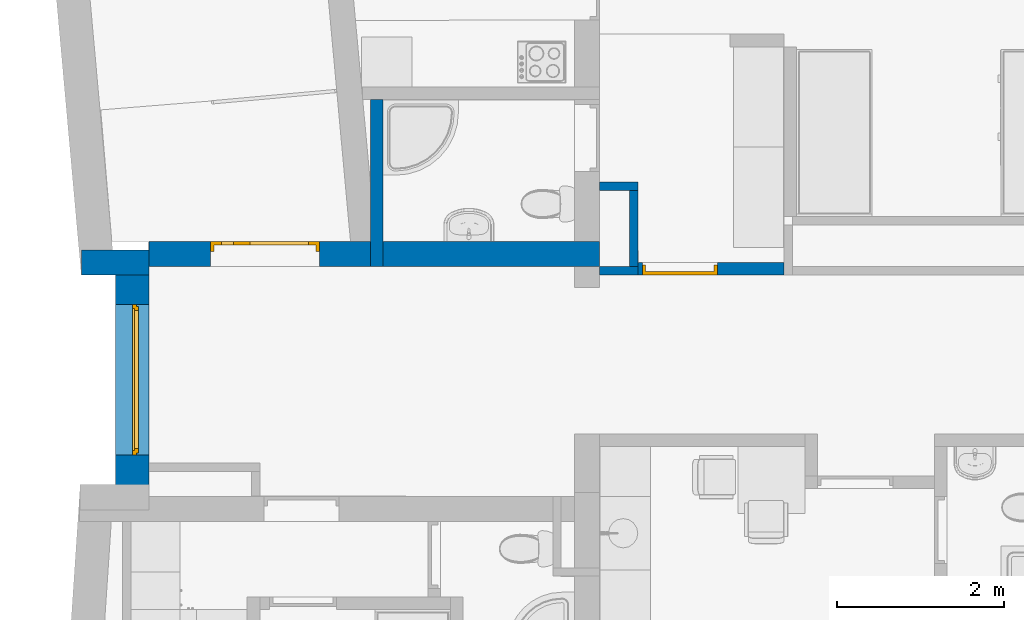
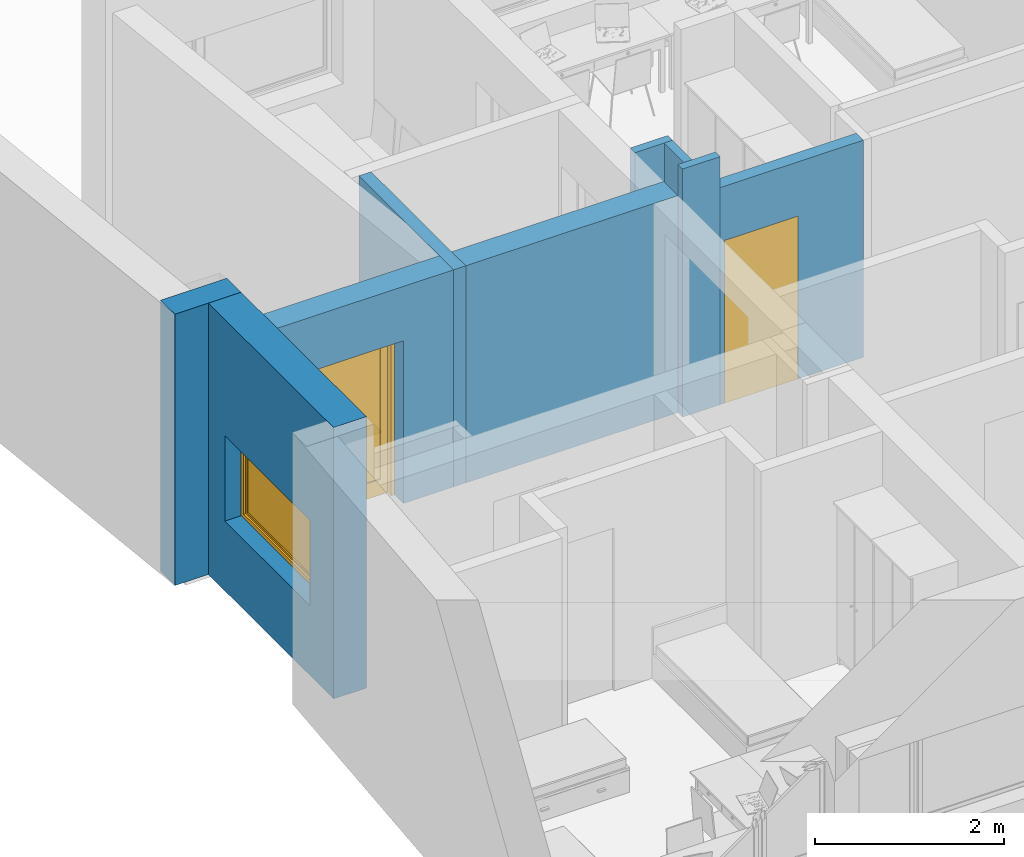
# One storey, part 4 of 152: 8 walls, 2 doors, 1 window, 3 openings.
"""IFC2X3 building model written with IfcOpenShell, lengths in millimetres."""

import ifcopenshell
import ifcopenshell.guid

model = None  # the IFC model being written
_history = None  # IfcOwnerHistory: only IFC2X3 demands one
_inside = {}  # id of a spatial element -> (the spatial element, [elements in it])
_under = {}  # id of a project, library or spatial element -> (it, [spatial elements below it])
_declared = {}  # id of a project -> (the project, [libraries it declares])
_typed = {}  # id of a type object -> (the type object, [elements of that type])
_made_of = {}  # id of a material, layer set ... -> (it, [elements and type objects made of it])


def new_model(schema):
    """Start an empty IFC model of exactly this schema.

    Asked for "IFC4X3", IfcOpenShell would pick the latest addendum, in which some entities
    have other attributes; the version numbers below select the first issue.
    IFC2X3 requires an IfcOwnerHistory on every rooted entity: one is made here for all.
    """
    global model, _history
    if schema == "IFC4X3":
        model = ifcopenshell.file(schema_version=(4, 3, 0, 0))
    else:
        model = ifcopenshell.file(schema=schema)
    _inside.clear()
    _under.clear()
    _declared.clear()
    _typed.clear()
    _made_of.clear()
    _history = None
    if model.schema == "IFC2X3":
        org = make("IfcOrganization", Name="unknown")
        user = make(
            "IfcPersonAndOrganization",
            ThePerson=make("IfcPerson", FamilyName="unknown"),
            TheOrganization=org,
        )
        app = make(
            "IfcApplication",
            ApplicationDeveloper=org,
            Version="unknown",
            ApplicationFullName="unknown",
            ApplicationIdentifier="unknown",
        )
        _history = make(
            "IfcOwnerHistory",
            OwningUser=user,
            OwningApplication=app,
            ChangeAction="ADDED",
            CreationDate=0,
        )
    return model


def make(cls, **values):
    """One entity of the class cls with the attributes given. An attribute that is None is left unset."""
    return model.create_entity(
        cls, **{name: value for name, value in values.items() if value is not None}
    )


def entity(cls, *values):
    """Any entity or typed value of the class cls, its attributes in the order of the schema. None: left unset."""
    e = model.create_entity(cls)
    for i, value in enumerate(values):
        if value is not None:
            e[i] = value
    return e


def rooted(cls, **values):
    """An entity with a GlobalId (a new one), such as an element, a storey or a relation."""
    return make(cls, GlobalId=ifcopenshell.guid.new(), OwnerHistory=_history, **values)


def si_unit(unit_type, name, prefix=None):
    """IfcSIUnit, for example si_unit("LENGTHUNIT", "METRE", prefix="MILLI")."""
    return make("IfcSIUnit", UnitType=unit_type, Prefix=prefix, Name=name)


def converted_unit(unit_type, name, factor, base, dimensions=None, offset=None):
    """IfcConversionBasedUnit, such as the inch: factor (a typed value) times the base unit."""
    return make(
        "IfcConversionBasedUnit"
        if offset is None
        else "IfcConversionBasedUnitWithOffset",
        ConversionOffset=offset,
        Dimensions=None
        if dimensions is None
        else entity("IfcDimensionalExponents", *dimensions),
        UnitType=unit_type,
        Name=name,
        ConversionFactor=make(
            "IfcMeasureWithUnit", ValueComponent=factor, UnitComponent=base
        ),
    )


def money_unit(currency):
    """IfcMonetaryUnit."""
    return make("IfcMonetaryUnit", Currency=currency)


def assignment(units):
    """IfcUnitAssignment: the units of a project."""
    return None if units is None else make("IfcUnitAssignment", Units=units)


def point(xyz):
    """IfcCartesianPoint."""
    return None if xyz is None else make("IfcCartesianPoint", Coordinates=xyz)


def direction(xyz):
    """IfcDirection."""
    return None if xyz is None else make("IfcDirection", DirectionRatios=xyz)


def frame(location, z_axis=None, x_axis=None):
    """IfcAxis2Placement3D, a coordinate frame: its origin and axes. An axis left out is left unset."""
    return make(
        "IfcAxis2Placement3D",
        Location=point(location),
        Axis=direction(z_axis),
        RefDirection=direction(x_axis),
    )


def origin_with_axes():
    """The frame at (0, 0, 0) with the z axis (0, 0, 1) and the x axis (1, 0, 0) written out."""
    return frame((0.0, 0.0, 0.0), z_axis=(0.0, 0.0, 1.0), x_axis=(1.0, 0.0, 0.0))


def place(relative_to, where):
    """IfcLocalPlacement: puts the frame where relative to a parent placement (None: the world)."""
    return make(
        "IfcLocalPlacement", PlacementRelTo=relative_to, RelativePlacement=where
    )


def context(
    kind, dimensions, precision=None, world=None, true_north=None, identifier=None
):
    """IfcGeometricRepresentationContext, for example the 3D "Model" context."""
    return make(
        "IfcGeometricRepresentationContext",
        ContextIdentifier=identifier,
        ContextType=kind,
        CoordinateSpaceDimension=dimensions,
        Precision=precision,
        WorldCoordinateSystem=world,
        TrueNorth=true_north,
    )


def subcontext(parent, identifier, kind, view, scale=None):
    """IfcGeometricRepresentationSubContext, for example "Body" below "Model"."""
    return make(
        "IfcGeometricRepresentationSubContext",
        ContextIdentifier=identifier,
        ContextType=kind,
        ParentContext=parent,
        TargetScale=scale,
        TargetView=view,
    )


def project(units=None, contexts=None):
    """IfcProject with its units and contexts."""
    return rooted(
        "IfcProject",
        Name="project",
        RepresentationContexts=contexts,
        UnitsInContext=assignment(units),
    )


def spatial(cls, under=None, at=None, **own):
    """A site, building, storey or space (cls), placed at a placement, below another one or the project."""
    s = rooted(cls, ObjectPlacement=at, **own)
    if under is not None:
        _under.setdefault(under.id(), (under, []))[1].append(s)
    return s


def polyline(points):
    """IfcPolyline through the points."""
    return make("IfcPolyline", Points=[point(p) for p in points])


def outline(outer, holes=None, kind="AREA"):
    """IfcArbitraryClosedProfileDef: a profile drawn as a closed curve; with holes, ...WithVoids."""
    if holes is None:
        return make("IfcArbitraryClosedProfileDef", ProfileType=kind, OuterCurve=outer)
    return make(
        "IfcArbitraryProfileDefWithVoids",
        ProfileType=kind,
        OuterCurve=outer,
        InnerCurves=holes,
    )


def extrude(swept, where, along, depth):
    """IfcExtrudedAreaSolid: the profile swept, set in the frame where, extruded along a direction by depth."""
    return make(
        "IfcExtrudedAreaSolid",
        SweptArea=swept,
        Position=where,
        ExtrudedDirection=direction(along),
        Depth=depth,
    )


def faces_of(points, faces, orient=None, outer=None):
    """IfcFace entities. A face is a list of loops; a loop is a list of indices into points, from 0.

    orient and outer hold one flag for each loop. By default every Orientation is true, the
    first loop of a face is its IfcFaceOuterBound and the others are IfcFaceBound.
    """
    made = []
    for i, loops in enumerate(faces):
        bounds = []
        for j, loop in enumerate(loops):
            is_outer = j == 0 if outer is None else outer[i][j]
            bounds.append(
                make(
                    "IfcFaceOuterBound" if is_outer else "IfcFaceBound",
                    Bound=make("IfcPolyLoop", Polygon=[points[k] for k in loop]),
                    Orientation=True if orient is None else orient[i][j],
                )
            )
        made.append(make("IfcFace", Bounds=bounds))
    return made


def open_shell(faces, orient=None, outer=None):
    """The faces of one IfcOpenShell. surface_model builds it on its shared points."""
    return ("IfcOpenShell", faces, orient, outer)


def faceted_brep(points, faces, orient=None, outer=None, voids=None):
    """IfcFacetedBrep: a solid bounded by flat faces; with voids (closed shells), ...WithVoids."""
    shared = [point(p) for p in points]
    hull = make("IfcClosedShell", CfsFaces=faces_of(shared, faces, orient, outer))
    if voids is None:
        return make("IfcFacetedBrep", Outer=hull)
    return make(
        "IfcFacetedBrepWithVoids",
        Outer=hull,
        Voids=[
            make(cls, CfsFaces=faces_of(shared, fs, o, b)) for cls, fs, o, b in voids
        ],
    )


def surface_model(cls, points, shells):
    """IfcFaceBasedSurfaceModel or IfcShellBasedSurfaceModel (cls): surfaces that need not close."""
    shared = [point(p) for p in points]
    made = [make(c, CfsFaces=faces_of(shared, fs, o, b)) for c, fs, o, b in shells]
    if cls == "IfcFaceBasedSurfaceModel":
        return make(cls, FbsmFaces=made)
    return make(cls, SbsmBoundary=made)


def shape(context_of_items, identifier, shape_type, items):
    """IfcShapeRepresentation: the items that make up one representation, for example the "Body"."""
    return make(
        "IfcShapeRepresentation",
        ContextOfItems=context_of_items,
        RepresentationIdentifier=identifier,
        RepresentationType=shape_type,
        Items=items,
    )


def source(mapping_origin, context_of_items, identifier, shape_type, items):
    """IfcRepresentationMap: a shape defined once, which mapped items show again and again."""
    return make(
        "IfcRepresentationMap",
        MappingOrigin=mapping_origin,
        MappedRepresentation=shape(context_of_items, identifier, shape_type, items),
    )


def transform(
    local_origin,
    x_axis=None,
    y_axis=None,
    z_axis=None,
    scale=None,
    scale2=None,
    scale3=None,
    uniform=True,
):
    """IfcCartesianTransformationOperator3D, or its non-uniform kind. x_axis, y_axis, z_axis: its Axis1, 2, 3."""
    if uniform:
        return make(
            "IfcCartesianTransformationOperator3D",
            Axis1=direction(x_axis),
            Axis2=direction(y_axis),
            LocalOrigin=point(local_origin),
            Scale=scale,
            Axis3=direction(z_axis),
        )
    return make(
        "IfcCartesianTransformationOperator3DnonUniform",
        Axis1=direction(x_axis),
        Axis2=direction(y_axis),
        LocalOrigin=point(local_origin),
        Scale=scale,
        Axis3=direction(z_axis),
        Scale2=scale2,
        Scale3=scale3,
    )


def mapped(mapping_source, mapping_target):
    """IfcMappedItem: shows the shape of a source again, moved by a transform."""
    return make(
        "IfcMappedItem", MappingSource=mapping_source, MappingTarget=mapping_target
    )


def material(Name=None, Category=None):
    """IfcMaterial."""
    return make("IfcMaterial", Name=Name, Category=Category)


def material_list(materials):
    """IfcMaterialList."""
    return make("IfcMaterialList", Materials=materials)


def layer(
    of_material, thickness, ventilated=None, Name=None, Category=None, Priority=None
):
    """IfcMaterialLayer: one layer of a wall or slab, of a material (None: an air gap)."""
    return make(
        "IfcMaterialLayer",
        Material=of_material,
        LayerThickness=thickness,
        IsVentilated=ventilated,
        Name=Name,
        Category=Category,
        Priority=Priority,
    )


def layer_set(layers, Name=None):
    """IfcMaterialLayerSet."""
    return make("IfcMaterialLayerSet", MaterialLayers=layers, LayerSetName=Name)


def layer_usage(for_layer_set, set_direction, sense, offset, extent=None):
    """IfcMaterialLayerSetUsage: how a layer set lies in its element."""
    return make(
        "IfcMaterialLayerSetUsage",
        ForLayerSet=for_layer_set,
        LayerSetDirection=set_direction,
        DirectionSense=sense,
        OffsetFromReferenceLine=offset,
        ReferenceExtent=extent,
    )


def made_of(thing, what):
    """Note that an element or type object is made of a material, layer set ...; save() writes the relation."""
    if what is not None:
        _made_of.setdefault(what.id(), (what, []))[1].append(thing)
    return thing


def type_object(cls, material=None, **own):
    """A type object (cls), such as IfcWallType, which elements share."""
    return made_of(rooted(cls, **own), material)


def element(
    cls,
    number,
    at=None,
    inside=None,
    cuts=None,
    type_object=None,
    material=None,
    context=None,
    identifier="Body",
    shape_type=None,
    held_by="IfcProductDefinitionShape",
    body=None,
    shapes=None,
    **own,
):
    """One element of the class cls, such as IfcWall. Its Tag is "e" and its number.

    at: its placement. inside: the storey or other place that contains it. cuts: it is an
    opening in that element (IfcRelVoidsElement). A single representation is given by context,
    identifier, shape_type and body (its items); several are given by shapes. held_by: the class
    of the entity that holds the representations. save() writes the other relations.
    """
    e = rooted(cls, Tag="e%d" % number, ObjectPlacement=at, **own)
    if body is not None:
        shapes = [shape(context, identifier, shape_type, body)]
    if shapes is not None:
        e.Representation = make(held_by, Representations=shapes)
    if inside is not None:
        _inside.setdefault(inside.id(), (inside, []))[1].append(e)
    if cuts is not None:
        rooted(
            "IfcRelVoidsElement", RelatingBuildingElement=cuts, RelatedOpeningElement=e
        )
    if type_object is not None:
        _typed.setdefault(type_object.id(), (type_object, []))[1].append(e)
    return made_of(e, material)


def fill(opening, filler):
    """IfcRelFillsElement: the door or window that sits in an opening."""
    return rooted(
        "IfcRelFillsElement",
        RelatingOpeningElement=opening,
        RelatedBuildingElement=filler,
    )


def aggregate(whole, parts):
    """IfcRelAggregates: a whole, such as a stair, and the parts it consists of."""
    return rooted("IfcRelAggregates", RelatingObject=whole, RelatedObjects=parts)


def save(model, path):
    """Write the relations noted so far, then the file.

    IfcRelAggregates (storeys below a building ...), IfcRelContainedInSpatialStructure (elements
    in a storey), IfcRelDefinesByType, IfcRelAssociatesMaterial and IfcRelDeclares: one each for
    every whole, place, type object, material and project.
    """
    for whole, parts in _under.values():
        aggregate(whole, parts)
    for where, things in _inside.values():
        rooted(
            "IfcRelContainedInSpatialStructure",
            RelatedElements=things,
            RelatingStructure=where,
        )
    for kind, things in _typed.values():
        rooted("IfcRelDefinesByType", RelatedObjects=things, RelatingType=kind)
    for what, things in _made_of.values():
        rooted("IfcRelAssociatesMaterial", RelatedObjects=things, RelatingMaterial=what)
    for by, libraries in _declared.values():
        rooted("IfcRelDeclares", RelatingContext=by, RelatedDefinitions=libraries)
    model.write(path)


model = new_model("IFC2X3")

# Units and contexts
model_context = context("Model", 3, precision=1e-05, world=origin_with_axes(), true_north=direction((0.0, 1.0)))
body_context = subcontext(model_context, "Body", "Model", "MODEL_VIEW")
ifc_project = project(units=[si_unit("LENGTHUNIT", "METRE", prefix="MILLI"), si_unit("AREAUNIT", "SQUARE_METRE"), si_unit("VOLUMEUNIT", "CUBIC_METRE"), converted_unit("PLANEANGLEUNIT", "DEGREE", entity("IfcPlaneAngleMeasure", 0.0174532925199), si_unit("PLANEANGLEUNIT", "RADIAN"), dimensions=[0, 0, 0, 0, 0, 0, 0]), si_unit("SOLIDANGLEUNIT", "STERADIAN"), money_unit("USD"), converted_unit("TIMEUNIT", "Year", entity("IfcTimeMeasure", 31556926.0), si_unit("TIMEUNIT", "SECOND"), dimensions=[0, 0, 0, 0, 0, 0, 0]), si_unit("MASSUNIT", "GRAM"), si_unit("THERMODYNAMICTEMPERATUREUNIT", "DEGREE_CELSIUS"), si_unit("LUMINOUSINTENSITYUNIT", "LUMEN")], contexts=[model_context])

# Site, building, storey
site_placement = place(None, origin_with_axes())
site = spatial("IfcSite", under=ifc_project, at=site_placement, Name="Site", CompositionType="ELEMENT")
building_placement = place(site_placement, origin_with_axes())
building = spatial("IfcBuilding", under=site, at=building_placement, Name="Building", CompositionType="ELEMENT")
storey_placement = place(building_placement, frame((0.0, 0.0, 9500.0), z_axis=(0.0, 0.0, 1.0), x_axis=(1.0, 0.0, 0.0)))
storey = spatial("IfcBuildingStorey", under=building, at=storey_placement, Name="5KORRUS", CompositionType="ELEMENT", Elevation=9500.0)

# Wall, opening, window
ifc_material_1 = material(Name="Olemasolevad seinad tellis, uus viimistlus")
ifc_layer_1 = layer(ifc_material_1, 400.0, ventilated="UNKNOWN")
ifc_layer_set_1 = layer_set([ifc_layer_1], Name="Olemasolevad seinad tellis, uus viimistlus 400")
ifc_layer_usage_1 = layer_usage(ifc_layer_set_1, "AXIS2", "POSITIVE", -400.0)
wall_type_1 = type_object("IfcWallType", Name="Olemasolevad seinad tellis, uus viimistlus 400", PredefinedType="NOTDEFINED")
wall_1_placement = place(storey_placement, frame((-53377.938157, -11039.6041088, 0.0), z_axis=(0.0, 0.0, 1.0), x_axis=(0.0, -1.0, 0.0)))
wall_1 = element("IfcWallStandardCase", 1, at=wall_1_placement, inside=storey, type_object=wall_type_1, material=ifc_layer_usage_1, Name="VS1", ObjectType="VS1", context=body_context, shape_type="SweptSolid", body=[
    extrude(outline(polyline([(0.0, -400.0), (2747.73345855, -400.0), (2747.73345855, 0.0), (0.0, 0.0), (0.0, -400.0)])), origin_with_axes(), (0.0, 0.0, 1.0), 3500.0),
])
opening_1_placement = place(wall_1_placement, frame((1349.63579061, 0.0, 900.0), z_axis=(0.0, 0.0, 1.0), x_axis=(1.0, 0.0, 0.0)))
opening_1 = element("IfcOpeningElement", 2, at=opening_1_placement, cuts=wall_1, Name="A5", context=body_context, shape_type="SweptSolid", body=[
    extrude(outline(polyline([(-900.0, 1100.0), (-900.0, 0.0), (900.0, 0.0), (900.0, 1100.0), (-900.0, 1100.0)])), frame((0.0, -200.0, 0.0), z_axis=(0.0, -1.0, 0.0), x_axis=(1.0, 0.0, 0.0)), (0.0, 0.0, 1.0), 600.0),
    extrude(outline(polyline([(-900.0, 0.0), (-900.0, -1100.0), (900.0, -1100.0), (900.0, 0.0), (-900.0, 0.0)])), frame((0.0, -200.0, 0.0), z_axis=(0.0, 1.0, 0.0), x_axis=(1.0, 0.0, 0.0)), (0.0, 0.0, 1.0), 600.0),
])
ifc_material_2 = material(Name="Background")
ifc_material_list = material_list([ifc_material_2])
window_style = type_object("IfcWindowStyle", Name="Window 19", ConstructionType="NOTDEFINED", OperationType="SINGLE_PANEL", ParameterTakesPrecedence=False, Sizeable=False)
shared_shape_1 = source(origin_with_axes(), body_context, "Body", "SurfaceModel", [
    faceted_brep([(-875.0, -150.0, 1050.0), (-900.0, -150.0, 1050.0), (-900.0, -200.0, 1050.0), (-850.0, -200.0, 1050.0), (-850.0, -175.0, 1050.0), (-875.0, -175.0, 1050.0), (-875.0, -150.0, 50.0), (-900.0, -150.0, 50.0), (-900.0, -200.0, 50.0), (-850.0, -200.0, 50.0), (-850.0, -175.0, 50.0), (-875.0, -175.0, 50.0)], [[[0, 1, 2, 3, 4, 5]], [[6, 7, 1, 0]], [[1, 7, 8, 2]], [[2, 8, 9, 3]], [[4, 3, 9, 10]], [[10, 11, 5, 4]], [[5, 11, 6, 0]], [[11, 10, 9, 8, 7, 6]]]),
    faceted_brep([(850.0, -175.0, 1050.0), (850.0, -200.0, 1050.0), (900.0, -200.0, 1050.0), (900.0, -150.0, 1050.0), (875.0, -150.0, 1050.0), (875.0, -175.0, 1050.0), (850.0, -175.0, 50.0), (850.0, -200.0, 50.0), (900.0, -200.0, 50.0), (900.0, -150.0, 50.0), (875.0, -150.0, 50.0), (875.0, -175.0, 50.0)], [[[0, 1, 2, 3, 4, 5]], [[6, 7, 1, 0]], [[8, 2, 1, 7]], [[9, 3, 2, 8]], [[4, 3, 9, 10]], [[10, 11, 5, 4]], [[5, 11, 6, 0]], [[11, 10, 9, 8, 7, 6]]]),
    faceted_brep([(850.0, -175.0, 50.0), (850.0, -200.0, 50.0), (900.0, -200.0, 50.0), (900.0, -150.0, 50.0), (875.0, -150.0, 50.0), (875.0, -175.0, 50.0), (-850.0, -175.0, 50.0), (-850.0, -200.0, 50.0), (-900.0, -200.0, 50.0), (-900.0, -200.0, 0.0), (900.0, -200.0, 0.0), (900.0, -150.0, 0.0), (-875.0, -150.0, 25.0), (875.0, -150.0, 25.0), (-900.0, -150.0, 0.0), (-900.0, -150.0, 50.0), (-875.0, -150.0, 50.0), (875.0, -175.0, 25.0), (-875.0, -175.0, 25.0), (-875.0, -175.0, 50.0)], [[[0, 1, 2, 3, 4, 5]], [[6, 7, 1, 0]], [[8, 9, 10, 2, 1, 7]], [[11, 3, 2, 10]], [[12, 13, 4, 3, 11, 14, 15, 16]], [[13, 17, 5, 4]], [[5, 17, 18, 19, 6, 0]], [[19, 16, 15, 8, 7, 6]], [[15, 14, 9, 8]], [[14, 11, 10, 9]], [[12, 18, 17, 13]], [[19, 18, 12, 16]]]),
    faceted_brep([(-875.0, -150.0, 1050.0), (-900.0, -150.0, 1050.0), (-900.0, -150.0, 1100.0), (900.0, -150.0, 1100.0), (900.0, -150.0, 1050.0), (875.0, -150.0, 1050.0), (875.0, -150.0, 1075.0), (-875.0, -150.0, 1075.0), (-875.0, -175.0, 1050.0), (-850.0, -175.0, 1050.0), (-850.0, -200.0, 1050.0), (-900.0, -200.0, 1050.0), (-900.0, -200.0, 1100.0), (900.0, -200.0, 1100.0), (900.0, -200.0, 1050.0), (875.0, -175.0, 1050.0), (850.0, -200.0, 1050.0), (850.0, -175.0, 1050.0), (875.0, -175.0, 1075.0), (-875.0, -175.0, 1075.0)], [[[0, 1, 2, 3, 4, 5, 6, 7]], [[8, 9, 10, 11, 1, 0]], [[2, 1, 11, 12]], [[3, 2, 12, 13]], [[4, 3, 13, 14]], [[15, 5, 4, 14, 16, 17]], [[5, 15, 18, 6]], [[6, 18, 19, 7]], [[7, 19, 8, 0]], [[17, 9, 8, 19, 18, 15]], [[17, 16, 10, 9]], [[14, 13, 12, 11, 10, 16]]]),
    faceted_brep([(-825.0, -175.0, 1025.0), (-825.0, -125.0, 1025.0), (-875.0, -125.0, 1025.0), (-875.0, -175.0, 1025.0), (-825.0, -175.0, 75.0), (-825.0, -125.0, 75.0), (-875.0, -125.0, 75.0), (-875.0, -175.0, 75.0)], [[[0, 1, 2, 3]], [[4, 5, 1, 0]], [[1, 5, 6, 2]], [[3, 2, 6, 7]], [[0, 3, 7, 4]], [[7, 6, 5, 4]]]),
    faceted_brep([(825.0, -175.0, 75.0), (825.0, -125.0, 75.0), (875.0, -125.0, 75.0), (875.0, -175.0, 75.0), (825.0, -175.0, 1025.0), (825.0, -125.0, 1025.0), (875.0, -125.0, 1025.0), (875.0, -175.0, 1025.0)], [[[0, 1, 2, 3]], [[4, 5, 1, 0]], [[1, 5, 6, 2]], [[3, 2, 6, 7]], [[0, 3, 7, 4]], [[7, 6, 5, 4]]]),
    faceted_brep([(875.0, -175.0, 25.0), (875.0, -125.0, 25.0), (875.0, -125.0, 75.0), (875.0, -175.0, 75.0), (-875.0, -175.0, 25.0), (-875.0, -125.0, 25.0), (-875.0, -125.0, 75.0), (-825.0, -125.0, 75.0), (825.0, -125.0, 75.0), (825.0, -175.0, 75.0), (-825.0, -175.0, 75.0), (-875.0, -175.0, 75.0)], [[[0, 1, 2, 3]], [[4, 5, 1, 0]], [[1, 5, 6, 7, 8, 2]], [[3, 2, 8, 9]], [[0, 3, 9, 10, 11, 4]], [[11, 6, 5, 4]], [[10, 7, 6, 11]], [[9, 8, 7, 10]]]),
    faceted_brep([(-875.0, -175.0, 1075.0), (-875.0, -125.0, 1075.0), (-875.0, -125.0, 1025.0), (-875.0, -175.0, 1025.0), (875.0, -175.0, 1075.0), (875.0, -125.0, 1075.0), (875.0, -125.0, 1025.0), (825.0, -125.0, 1025.0), (-825.0, -125.0, 1025.0), (-825.0, -175.0, 1025.0), (825.0, -175.0, 1025.0), (875.0, -175.0, 1025.0)], [[[0, 1, 2, 3]], [[4, 5, 1, 0]], [[1, 5, 6, 7, 8, 2]], [[3, 2, 8, 9]], [[0, 3, 9, 10, 11, 4]], [[11, 6, 5, 4]], [[10, 7, 6, 11]], [[9, 8, 7, 10]]]),
    surface_model("IfcShellBasedSurfaceModel", [(-825.0, -160.0, 75.0), (825.0, -160.0, 75.0), (825.0, -160.0, 1025.0), (-825.0, -160.0, 1025.0)], [open_shell([[[0, 1, 2, 3]]])]),
    surface_model("IfcShellBasedSurfaceModel", [(-825.0, -140.0, 75.0), (-825.0, -140.0, 1025.0), (825.0, -140.0, 1025.0), (825.0, -140.0, 75.0)], [open_shell([[[0, 1, 2, 3]]])]),
])
window_placement = place(opening_1_placement, frame((-900.0, 0.0, 0.0), z_axis=(0.0, 0.0, 1.0), x_axis=(1.0, 0.0, 0.0)))
window = element("IfcWindow", 3, at=window_placement, inside=storey, type_object=window_style, material=ifc_material_list, Name="A5", ObjectType="A1", OverallHeight=1100.0, OverallWidth=1800.0, context=body_context, shape_type="MappedRepresentation", body=[
    mapped(shared_shape_1, transform((900.0, 0.0, 0.0))),
])
fill(opening_1, window)

# Walls
ifc_layer_2 = layer(ifc_material_1, 300.0, ventilated="UNKNOWN")
ifc_layer_set_2 = layer_set([ifc_layer_2], Name="Olemasolevad seinad tellis, uus viimistlus 300")
ifc_layer_usage_2 = layer_usage(ifc_layer_set_2, "AXIS2", "POSITIVE", 0.0)
wall_type_2 = type_object("IfcWallType", Name="Olemasolevad seinad tellis, uus viimistlus 300", PredefinedType="NOTDEFINED")
wall_2_placement = place(storey_placement, frame((-54187.7234453, -11140.7868098, 0.0), z_axis=(0.0, 0.0, 1.0), x_axis=(1.0, 0.0, 0.0)))
element("IfcWallStandardCase", 4, at=wall_2_placement, inside=storey, type_object=wall_type_2, material=ifc_layer_usage_2, Name="VS1", ObjectType="VS1", context=body_context, shape_type="SweptSolid", body=[
    extrude(outline(polyline([(0.0, 0.0), (809.7852883, 0.0), (809.7852883, 300.0), (0.0, 300.0), (0.0, 0.0)])), origin_with_axes(), (0.0, 0.0, 1.0), 3500.0),
])
ifc_material_3 = material(Name="UmbKipsplaat")
ifc_layer_3 = layer(ifc_material_3, 13.0, ventilated="UNKNOWN")
ifc_layer_4 = layer(ifc_material_3, 13.0, ventilated="UNKNOWN")
ifc_material_4 = material(Name="SOOJUSTUS MINERAALVILL")
ifc_layer_5 = layer(ifc_material_4, 98.0, ventilated="UNKNOWN")
ifc_layer_6 = layer(ifc_material_3, 13.0, ventilated="UNKNOWN")
ifc_layer_7 = layer(ifc_material_3, 13.0, ventilated="UNKNOWN")
ifc_layer_set_3 = layer_set([ifc_layer_3, ifc_layer_4, ifc_layer_5, ifc_layer_6, ifc_layer_7], Name="kipssein150")
ifc_layer_usage_3 = layer_usage(ifc_layer_set_3, "AXIS2", "POSITIVE", -150.0)
wall_type_3 = type_object("IfcWallType", Name="kipssein150 150", PredefinedType="NOTDEFINED")
wall_3_placement = place(storey_placement, frame((-50578.5849733, -9039.27319796, 0.0), z_axis=(0.0, 0.0, 1.0), x_axis=(0.0, -1.0, 0.0)))
element("IfcWallStandardCase", 5, at=wall_3_placement, inside=storey, type_object=wall_type_3, material=ifc_layer_usage_3, Name="SS1", ObjectType="SS1", context=body_context, shape_type="SweptSolid", body=[
    extrude(outline(polyline([(0.0, -150.0), (2000.33091084, -150.0), (2000.33091084, 0.0), (0.0, 0.0), (0.0, -150.0)])), origin_with_axes(), (0.0, 0.0, 1.0), 2800.0),
])

# Wall, opening, door
ifc_layer_usage_4 = layer_usage(ifc_layer_set_3, "AXIS2", "POSITIVE", 0.0)
wall_4_placement = place(storey_placement, frame((-47531.5705949, -11136.6041088, 0.0), z_axis=(0.0, 0.0, 1.0), x_axis=(1.0, 0.0, 0.0)))
wall_4 = element("IfcWallStandardCase", 6, at=wall_4_placement, inside=storey, type_object=wall_type_3, material=ifc_layer_usage_4, Name="SS1", ObjectType="SS1", context=body_context, shape_type="SweptSolid", body=[
    extrude(outline(polyline([(0.0, 0.0), (1747.43782012, 0.0), (1747.43782012, 150.0), (0.0, 150.0), (0.0, 0.0)])), origin_with_axes(), (0.0, 0.0, 1.0), 2800.0),
])
opening_2_placement = place(wall_4_placement, frame((501.025231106, 0.0, 0.0), z_axis=(0.0, 0.0, 1.0), x_axis=(1.0, 0.0, 0.0)))
opening_2 = element("IfcOpeningElement", 7, at=opening_2_placement, cuts=wall_4, Name="SU2-6", context=body_context, shape_type="SweptSolid", body=[
    extrude(outline(polyline([(-450.0, -2100.0), (450.0, -2100.0), (450.0, 0.0), (-450.0, 0.0), (-450.0, -2100.0)])), frame((0.0, 150.0, 0.0), z_axis=(0.0, 1.0, 0.0), x_axis=(1.0, 0.0, 0.0)), (0.0, 0.0, -1.0), 450.0),
])
door_style_1 = type_object("IfcDoorStyle", Name="Door 19", ConstructionType="NOTDEFINED", OperationType="SINGLE_SWING_LEFT", ParameterTakesPrecedence=False, Sizeable=False)
shared_shape_2 = source(origin_with_axes(), body_context, "Body", "Brep", [
    faceted_brep([(410.0, -40.0, 0.0), (410.0, -115.0, 0.0), (410.0, -115.0, 2060.0), (410.0, -40.0, 2060.0), (422.0, -40.0, 0.0), (422.0, 0.0, 0.0), (450.0, 0.0, 0.0), (450.0, -115.0, 0.0), (450.0, -115.0, 2060.0), (422.0, -40.0, 2060.0), (450.0, 0.0, 2060.0), (422.0, 0.0, 2060.0)], [[[0, 1, 2, 3]], [[4, 5, 6, 7, 1, 0]], [[2, 1, 7, 8]], [[9, 3, 2, 8, 10, 11]], [[9, 4, 0, 3]], [[11, 5, 4, 9]], [[11, 10, 6, 5]], [[7, 6, 10, 8]]]),
    faceted_brep([(-422.0, -40.0, 2060.0), (-422.0, 0.0, 2060.0), (-450.0, 0.0, 2060.0), (-450.0, -115.0, 2060.0), (-410.0, -115.0, 2060.0), (-410.0, -40.0, 2060.0), (-422.0, -40.0, 0.0), (-422.0, 0.0, 0.0), (-450.0, 0.0, 0.0), (-450.0, -115.0, 0.0), (-410.0, -115.0, 0.0), (-410.0, -40.0, 0.0)], [[[0, 1, 2, 3, 4, 5]], [[0, 6, 7, 1]], [[7, 8, 2, 1]], [[3, 2, 8, 9]], [[4, 3, 9, 10]], [[5, 4, 10, 11]], [[5, 11, 6, 0]], [[6, 11, 10, 9, 8, 7]]]),
    faceted_brep([(422.0, 0.0, 2072.0), (-422.0, 0.0, 2072.0), (-422.0, 0.0, 2060.0), (-450.0, 0.0, 2060.0), (-450.0, 0.0, 2100.0), (450.0, 0.0, 2100.0), (450.0, 0.0, 2060.0), (422.0, 0.0, 2060.0), (422.0, -40.0, 2072.0), (-422.0, -40.0, 2072.0), (-422.0, -40.0, 2060.0), (-410.0, -40.0, 2060.0), (-410.0, -115.0, 2060.0), (-450.0, -115.0, 2060.0), (-450.0, -115.0, 2100.0), (450.0, -115.0, 2100.0), (450.0, -115.0, 2060.0), (422.0, -40.0, 2060.0), (410.0, -115.0, 2060.0), (410.0, -40.0, 2060.0)], [[[0, 1, 2, 3, 4, 5, 6, 7]], [[0, 8, 9, 1]], [[1, 9, 10, 2]], [[10, 11, 12, 13, 3, 2]], [[14, 4, 3, 13]], [[15, 5, 4, 14]], [[16, 6, 5, 15]], [[17, 7, 6, 16, 18, 19]], [[7, 17, 8, 0]], [[10, 9, 8, 17, 19, 11]], [[19, 18, 12, 11]], [[13, 12, 18, 16, 15, 14]]]),
    faceted_brep([(-422.0, 0.0, 0.0), (422.0, 0.0, 0.0), (422.0, -40.0, 0.0), (-422.0, -40.0, 0.0), (-422.0, 0.0, 2072.0), (422.0, 0.0, 2072.0), (422.0, -40.0, 2072.0), (-422.0, -40.0, 2072.0)], [[[0, 1, 2, 3]], [[0, 4, 5, 1]], [[1, 5, 6, 2]], [[3, 2, 6, 7]], [[4, 0, 3, 7]], [[5, 4, 7, 6]]]),
])
door_1_placement = place(opening_2_placement, frame((450.0, 0.0, 0.0), z_axis=(0.0, 0.0, 1.0), x_axis=(-1.0, 0.0, 0.0)))
door_1 = element("IfcDoor", 8, at=door_1_placement, inside=storey, type_object=door_style_1, material=ifc_material_list, Name="SU2-6", ObjectType="Korteri välisuks", OverallHeight=2100.0, OverallWidth=900.0, context=body_context, shape_type="MappedRepresentation", body=[
    mapped(shared_shape_2, transform((450.0, 0.0, 0.0))),
])
fill(opening_2, door_1)

ifc_material_5 = material(Name="Olemasolevad seinad tellis, uus viimistlus")
ifc_layer_8 = layer(ifc_material_5, 300.0, ventilated="UNKNOWN")
ifc_layer_set_4 = layer_set([ifc_layer_8], Name="Olemasolevad seinad tellis, uus viimistlus  300")
ifc_layer_usage_5 = layer_usage(ifc_layer_set_4, "AXIS2", "POSITIVE", 0.0)
wall_type_4 = type_object("IfcWallType", Name="Olemasolevad seinad tellis, uus viimistlus  300", PredefinedType="NOTDEFINED")
wall_5_placement = place(storey_placement, frame((-53377.938157, -11039.6041088, 0.0), z_axis=(0.0, 0.0, 1.0), x_axis=(1.0, 0.0, 0.0)))
wall_5 = element("IfcWallStandardCase", 9, at=wall_5_placement, inside=storey, type_object=wall_type_4, material=ifc_layer_usage_5, Name="KS1", ObjectType="KS1", context=body_context, shape_type="SweptSolid", body=[
    extrude(outline(polyline([(0.0, 0.0), (5387.64145368, 0.0), (5387.64145368, 300.0), (0.0, 300.0), (0.0, 0.0)])), origin_with_axes(), (0.0, 0.0, 1.0), 2800.0),
])
opening_3_placement = place(wall_5_placement, frame((1386.20809059, 0.0, 0.0), z_axis=(0.0, 0.0, 1.0), x_axis=(1.0, 0.0, 0.0)))
opening_3 = element("IfcOpeningElement", 10, at=opening_3_placement, cuts=wall_5, Name="SU4-2", context=body_context, shape_type="SweptSolid", body=[
    extrude(outline(polyline([(-650.0, -2100.0), (650.0, -2100.0), (650.0, 0.0), (-650.0, 0.0), (-650.0, -2100.0)])), frame((0.0, -300.0, 0.0), z_axis=(0.0, 1.0, 0.0), x_axis=(1.0, 0.0, 0.0)), (0.0, 0.0, 1.0), 900.0),
])
door_style_2 = type_object("IfcDoorStyle", Name="Double Door Asymmetric 19", ConstructionType="NOTDEFINED", OperationType="DOUBLE_DOOR_SINGLE_SWING", ParameterTakesPrecedence=False, Sizeable=False)
shared_shape_3 = source(origin_with_axes(), body_context, "Body", "SurfaceModel", [
    faceted_brep([(-610.0, -40.0, 0.0), (-610.0, -40.0, 2060.0), (-610.0, -115.0, 2060.0), (-610.0, -115.0, 0.0), (-622.0, -40.0, 2060.0), (-622.0, -40.0, 0.0), (-622.0, 0.0, 2060.0), (-650.0, 0.0, 2060.0), (-650.0, -115.0, 2060.0), (-650.0, -115.0, 0.0), (-650.0, 0.0, 0.0), (-622.0, 0.0, 0.0)], [[[0, 1, 2, 3]], [[4, 1, 0, 5]], [[4, 6, 7, 8, 2, 1]], [[2, 8, 9, 3]], [[5, 0, 3, 9, 10, 11]], [[6, 4, 5, 11]], [[6, 11, 10, 7]], [[9, 8, 7, 10]]]),
    faceted_brep([(622.0, -40.0, 2060.0), (610.0, -40.0, 2060.0), (610.0, -115.0, 2060.0), (650.0, -115.0, 2060.0), (650.0, 0.0, 2060.0), (622.0, 0.0, 2060.0), (622.0, -40.0, 0.0), (610.0, -40.0, 0.0), (610.0, -115.0, 0.0), (650.0, -115.0, 0.0), (650.0, 0.0, 0.0), (622.0, 0.0, 0.0)], [[[0, 1, 2, 3, 4, 5]], [[1, 0, 6, 7]], [[1, 7, 8, 2]], [[2, 8, 9, 3]], [[3, 9, 10, 4]], [[11, 5, 4, 10]], [[0, 5, 11, 6]], [[6, 11, 10, 9, 8, 7]]]),
    faceted_brep([(-622.0, 0.0, 2072.0), (-622.0, 0.0, 2060.0), (-650.0, 0.0, 2060.0), (-650.0, 0.0, 2100.0), (650.0, 0.0, 2100.0), (650.0, 0.0, 2060.0), (622.0, 0.0, 2060.0), (622.0, 0.0, 2072.0), (-622.0, -40.0, 2072.0), (-622.0, -40.0, 2060.0), (-610.0, -40.0, 2060.0), (-610.0, -115.0, 2060.0), (-650.0, -115.0, 2060.0), (-650.0, -115.0, 2100.0), (650.0, -115.0, 2100.0), (650.0, -115.0, 2060.0), (622.0, -40.0, 2060.0), (610.0, -115.0, 2060.0), (610.0, -40.0, 2060.0), (622.0, -40.0, 2072.0)], [[[0, 1, 2, 3, 4, 5, 6, 7]], [[1, 0, 8, 9]], [[9, 10, 11, 12, 2, 1]], [[12, 13, 3, 2]], [[13, 14, 4, 3]], [[14, 15, 5, 4]], [[16, 6, 5, 15, 17, 18]], [[7, 6, 16, 19]], [[0, 7, 19, 8]], [[16, 18, 10, 9, 8, 19]], [[10, 18, 17, 11]], [[15, 14, 13, 12, 11, 17]]]),
    faceted_brep([(622.0, 0.0, 200.0), (622.0, -40.0, 200.0), (522.0, -40.0, 200.0), (522.0, 0.0, 200.0), (622.0, 0.0, 1972.0), (622.0, -40.0, 1972.0), (522.0, -40.0, 1972.0), (522.0, 0.0, 1972.0)], [[[0, 1, 2, 3]], [[4, 5, 1, 0]], [[1, 5, 6, 2]], [[3, 2, 6, 7]], [[0, 3, 7, 4]], [[7, 6, 5, 4]]]),
    faceted_brep([(-278.0, 0.0, 200.0), (-278.0, -40.0, 200.0), (-278.0, -40.0, 1972.0), (-278.0, 0.0, 1972.0), (-178.0, 0.0, 200.0), (-178.0, -40.0, 200.0), (-178.0, -40.0, 1972.0), (-178.0, 0.0, 1972.0)], [[[0, 1, 2, 3]], [[4, 5, 1, 0]], [[1, 5, 6, 2]], [[3, 2, 6, 7]], [[0, 3, 7, 4]], [[7, 6, 5, 4]]]),
    faceted_brep([(622.0, 0.0, 0.0), (622.0, -40.0, 0.0), (-278.0, -40.0, 0.0), (-278.0, 0.0, 0.0), (622.0, 0.0, 200.0), (622.0, -40.0, 200.0), (522.0, -40.0, 200.0), (-178.0, -40.0, 200.0), (-278.0, -40.0, 200.0), (-278.0, 0.0, 200.0), (-178.0, 0.0, 200.0), (522.0, 0.0, 200.0)], [[[0, 1, 2, 3]], [[4, 5, 1, 0]], [[1, 5, 6, 7, 8, 2]], [[3, 2, 8, 9]], [[0, 3, 9, 10, 11, 4]], [[11, 6, 5, 4]], [[10, 7, 6, 11]], [[9, 8, 7, 10]]]),
    faceted_brep([(622.0, 0.0, 2072.0), (622.0, -40.0, 2072.0), (622.0, -40.0, 1972.0), (622.0, 0.0, 1972.0), (-278.0, 0.0, 2072.0), (-278.0, -40.0, 2072.0), (-278.0, -40.0, 1972.0), (-178.0, -40.0, 1972.0), (522.0, -40.0, 1972.0), (522.0, 0.0, 1972.0), (-178.0, 0.0, 1972.0), (-278.0, 0.0, 1972.0)], [[[0, 1, 2, 3]], [[4, 5, 1, 0]], [[1, 5, 6, 7, 8, 2]], [[3, 2, 8, 9]], [[0, 3, 9, 10, 11, 4]], [[11, 6, 5, 4]], [[10, 7, 6, 11]], [[9, 8, 7, 10]]]),
    surface_model("IfcShellBasedSurfaceModel", [(522.0, -14.0, 200.0), (-178.0, -14.0, 200.0), (-178.0, -14.0, 1972.0), (522.0, -14.0, 1972.0)], [open_shell([[[0, 1, 2, 3]]])]),
    surface_model("IfcShellBasedSurfaceModel", [(522.0, -26.0, 200.0), (522.0, -26.0, 1972.0), (-178.0, -26.0, 1972.0), (-178.0, -26.0, 200.0)], [open_shell([[[0, 1, 2, 3]]])]),
    faceted_brep([(-622.0, 0.0, 200.0), (-522.0, 0.0, 200.0), (-522.0, -40.0, 200.0), (-622.0, -40.0, 200.0), (-622.0, 0.0, 1972.0), (-522.0, 0.0, 1972.0), (-522.0, -40.0, 1972.0), (-622.0, -40.0, 1972.0)], [[[0, 1, 2, 3]], [[0, 4, 5, 1]], [[1, 5, 6, 2]], [[3, 2, 6, 7]], [[4, 0, 3, 7]], [[5, 4, 7, 6]]]),
    faceted_brep([(-278.0, 0.0, 200.0), (-278.0, 0.0, 1972.0), (-278.0, -40.0, 1972.0), (-278.0, -40.0, 200.0), (-378.0, 0.0, 200.0), (-378.0, 0.0, 1972.0), (-378.0, -40.0, 1972.0), (-378.0, -40.0, 200.0)], [[[0, 1, 2, 3]], [[0, 4, 5, 1]], [[1, 5, 6, 2]], [[3, 2, 6, 7]], [[4, 0, 3, 7]], [[5, 4, 7, 6]]]),
    faceted_brep([(-622.0, 0.0, 0.0), (-278.0, 0.0, 0.0), (-278.0, -40.0, 0.0), (-622.0, -40.0, 0.0), (-622.0, 0.0, 200.0), (-522.0, 0.0, 200.0), (-378.0, 0.0, 200.0), (-278.0, 0.0, 200.0), (-278.0, -40.0, 200.0), (-378.0, -40.0, 200.0), (-522.0, -40.0, 200.0), (-622.0, -40.0, 200.0)], [[[0, 1, 2, 3]], [[0, 4, 5, 6, 7, 1]], [[1, 7, 8, 2]], [[3, 2, 8, 9, 10, 11]], [[4, 0, 3, 11]], [[5, 4, 11, 10]], [[6, 5, 10, 9]], [[7, 6, 9, 8]]]),
    faceted_brep([(-622.0, 0.0, 2072.0), (-622.0, 0.0, 1972.0), (-622.0, -40.0, 1972.0), (-622.0, -40.0, 2072.0), (-278.0, 0.0, 2072.0), (-278.0, 0.0, 1972.0), (-378.0, 0.0, 1972.0), (-522.0, 0.0, 1972.0), (-522.0, -40.0, 1972.0), (-378.0, -40.0, 1972.0), (-278.0, -40.0, 1972.0), (-278.0, -40.0, 2072.0)], [[[0, 1, 2, 3]], [[0, 4, 5, 6, 7, 1]], [[1, 7, 8, 2]], [[3, 2, 8, 9, 10, 11]], [[4, 0, 3, 11]], [[5, 4, 11, 10]], [[6, 5, 10, 9]], [[7, 6, 9, 8]]]),
    surface_model("IfcShellBasedSurfaceModel", [(-522.0, -14.0, 200.0), (-522.0, -14.0, 1972.0), (-378.0, -14.0, 1972.0), (-378.0, -14.0, 200.0)], [open_shell([[[0, 1, 2, 3]]])]),
    surface_model("IfcShellBasedSurfaceModel", [(-522.0, -26.0, 200.0), (-378.0, -26.0, 200.0), (-378.0, -26.0, 1972.0), (-522.0, -26.0, 1972.0)], [open_shell([[[0, 1, 2, 3]]])]),
])
door_2_placement = place(opening_3_placement, frame((-650.0, 0.0, 0.0), z_axis=(0.0, 0.0, 1.0), x_axis=(1.0, 0.0, 0.0)))
door_2 = element("IfcDoor", 11, at=door_2_placement, inside=storey, type_object=door_style_2, material=ifc_material_list, Name="SU4-2", ObjectType="Trepkoja uks", OverallHeight=2100.0, OverallWidth=1300.0, context=body_context, shape_type="MappedRepresentation", body=[
    mapped(shared_shape_3, transform((650.0, 300.0, 0.0))),
])
fill(opening_3, door_2)

# Walls
ifc_material_6 = material(Name="krohv")
ifc_layer_9 = layer(ifc_material_6, 2.0, ventilated="UNKNOWN")
ifc_layer_10 = layer(ifc_material_6, 10.0, ventilated="UNKNOWN")
ifc_material_7 = material(Name="Kergplokk")
ifc_layer_11 = layer(ifc_material_7, 76.0, ventilated="UNKNOWN")
ifc_layer_12 = layer(ifc_material_6, 10.0, ventilated="UNKNOWN")
ifc_layer_13 = layer(ifc_material_6, 2.0, ventilated="UNKNOWN")
ifc_layer_set_5 = layer_set([ifc_layer_9, ifc_layer_10, ifc_layer_11, ifc_layer_12, ifc_layer_13], Name="Kergplokk Bauroc 100")
ifc_layer_usage_6 = layer_usage(ifc_layer_set_5, "AXIS2", "POSITIVE", 0.0)
wall_type_5 = type_object("IfcWallType", Name="Kergplokk Bauroc 100 100", PredefinedType="NOTDEFINED")
wall_6_placement = place(storey_placement, frame((-47531.5705949, -10029.2968419, 0.0), z_axis=(0.0, 0.0, 1.0), x_axis=(-1.0, 0.0, 0.0)))
element("IfcWallStandardCase", 12, at=wall_6_placement, inside=storey, type_object=wall_type_5, material=ifc_layer_usage_6, Name="SS2", ObjectType="SS2", context=body_context, shape_type="SweptSolid", body=[
    extrude(outline(polyline([(0.0, 0.0), (458.72610841, 0.0), (458.72610841, 100.0), (0.0, 100.0), (0.0, 0.0)])), origin_with_axes(), (0.0, 0.0, 1.0), 2800.0),
])
ifc_layer_usage_7 = layer_usage(ifc_layer_set_5, "AXIS2", "POSITIVE", 0.0)
wall_7_placement = place(storey_placement, frame((-47531.5705949, -11136.6041088, 0.0), z_axis=(0.0, 0.0, 1.0), x_axis=(0.0, 1.0, 0.0)))
element("IfcWallStandardCase", 13, at=wall_7_placement, inside=storey, type_object=wall_type_5, material=ifc_layer_usage_7, Name="SS2", ObjectType="SS2", context=body_context, shape_type="SweptSolid", body=[
    extrude(outline(polyline([(0.0, 0.0), (1107.30726686, 0.0), (1107.30726686, 100.0), (0.0, 100.0), (0.0, 0.0)])), origin_with_axes(), (0.0, 0.0, 1.0), 2800.0),
])
ifc_layer_usage_8 = layer_usage(ifc_layer_set_5, "AXIS2", "POSITIVE", 0.0)
wall_8_placement = place(storey_placement, frame((-47990.2967033, -11136.6041088, 0.0), z_axis=(0.0, 0.0, 1.0), x_axis=(1.0, 0.0, 0.0)))
element("IfcWallStandardCase", 14, at=wall_8_placement, inside=storey, type_object=wall_type_5, material=ifc_layer_usage_8, Name="SS2", ObjectType="SS2", context=body_context, shape_type="SweptSolid", body=[
    extrude(outline(polyline([(0.0, 0.0), (458.72610841, 0.0), (458.72610841, 100.0), (0.0, 100.0), (0.0, 0.0)])), origin_with_axes(), (0.0, 0.0, 1.0), 3200.0),
])

save(model, "model.ifc")
